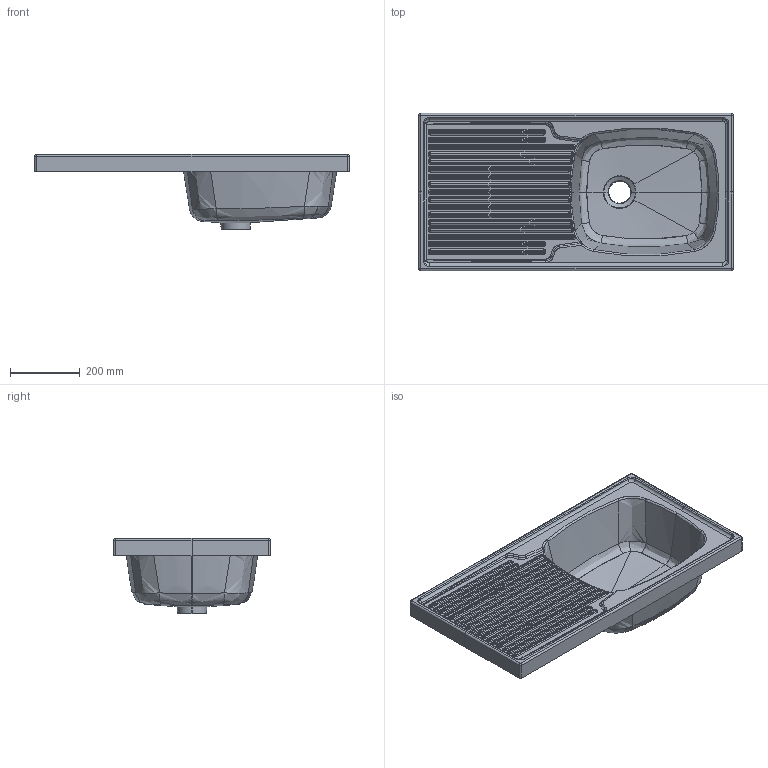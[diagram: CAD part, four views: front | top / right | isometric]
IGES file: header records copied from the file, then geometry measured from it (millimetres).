
Start section: START RECORD GO HERE.
Global section: file name: 5003_3D.igs; native system: DASSAULT SYSTEMES CATIA V5 R19 - www.3ds.com; preprocessor: CATIA Version 5 Release 19 SP 5 ; author: gioge; organization: LAPTOP-G94B6G74; date: 20201024.093619; units: millimetre
Bounding box: 900 x 450 x 215 mm (x, y, z)
Surface area: 1301033.8 mm2 (no closed solid volume)
Topology: 0 solids, 0 shells, 519 faces, 2464 edges, 2454 vertices
Faces by surface type: revolution 330, bspline 148, plane 41
